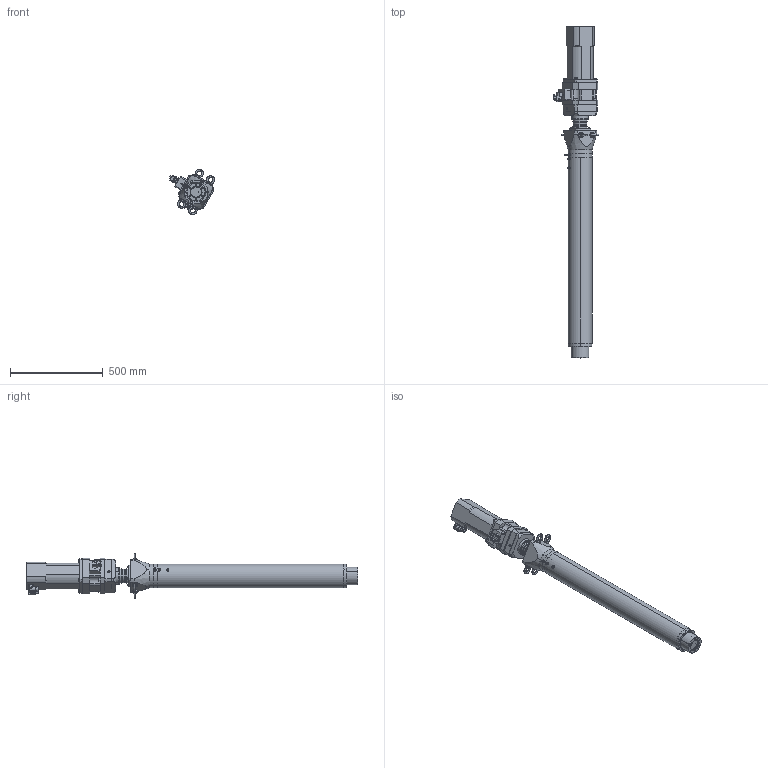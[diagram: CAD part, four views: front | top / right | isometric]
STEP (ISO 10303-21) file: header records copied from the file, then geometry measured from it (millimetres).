
FILE_DESCRIPTION (( 'STEP AP214' ), '1' );
FILE_NAME ('RLWIK030D-075-025SG0.STEP', '2023-04-05T14:06:12', ( '' ), ( '' ), 'SwSTEP 2.0', 'SolidWorks 2021', '' );
FILE_SCHEMA (( 'AUTOMOTIVE_DESIGN' ));
Length unit declared in the file: millimetre
Products named in the file (1): RLWIK030D-075-025SG0
Bounding box: 244.57 x 1787.5 x 244.54 mm (x, y, z)
Volume: 20139013.1 mm3; surface area: 1987513.5 mm2
Topology: 38 solids, 38 shells, 1399 faces, 3296 edges, 1987 vertices
Faces by surface type: cylinder 558, plane 477, cone 264, torus 80, bspline 18, sphere 2
Entity records: 57415 total; most frequent: CARTESIAN_POINT 9173, DIRECTION 7255, ORIENTED_EDGE 6320, EDGE_CURVE 3160, AXIS2_PLACEMENT_3D 2873, VERTEX_POINT 1987, EDGE_LOOP 1645, VECTOR 1509
